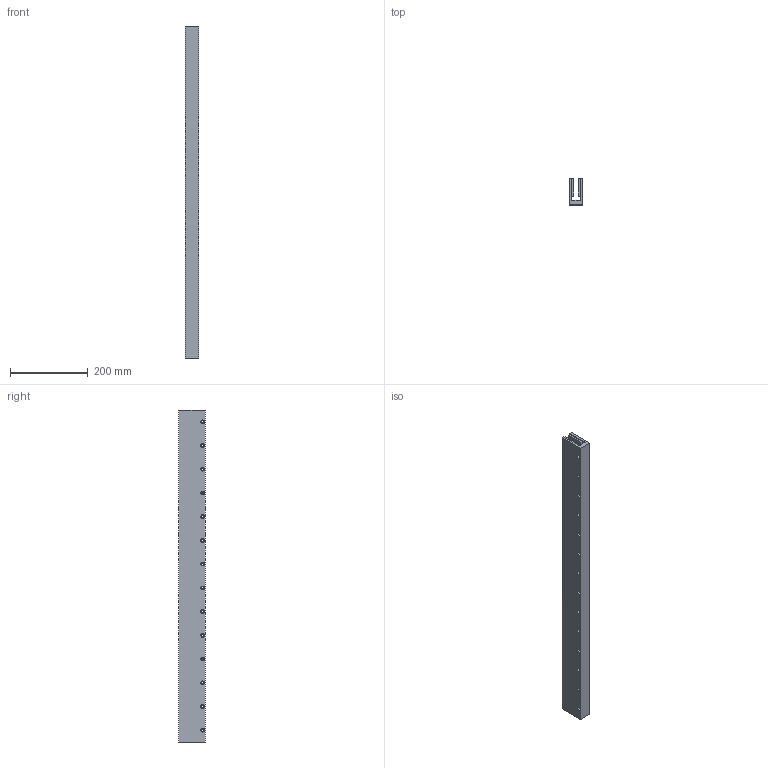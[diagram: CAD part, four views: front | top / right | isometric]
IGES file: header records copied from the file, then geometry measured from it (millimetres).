
Global section: file name: No Iges File Name specified; native system: Autodesk Inventor 2012; preprocessor: AutoDesk Inventor Iges Exporter R2012; author: je17857; date: 20120511.155654; units: inch
Bounding box: 34.29 x 67.31 x 853.19 mm (x, y, z)
Volume: 1268748.3 mm3; surface area: 323856.7 mm2
Topology: 1 solids, 1 shells, 360 faces, 822 edges, 548 vertices
Faces by surface type: plane 318, revolution 42
